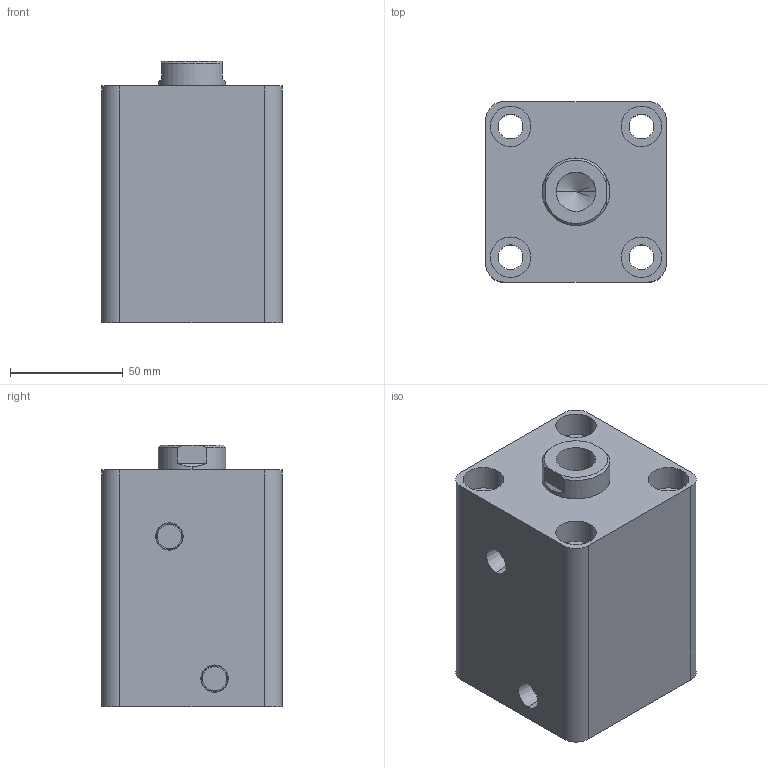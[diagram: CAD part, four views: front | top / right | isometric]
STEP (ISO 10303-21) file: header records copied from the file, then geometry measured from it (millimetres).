
FILE_DESCRIPTION (( 'STEP AP203' ), '1' );
FILE_NAME ('HTB-SD50-45N.STEP', '2019-10-07T07:09:15', ( '微软用户' ), ( '微软中国' ), 'SwSTEP 2.0', 'SolidWorks 2012', '' );
FILE_SCHEMA (( 'CONFIG_CONTROL_DESIGN' ));
Length unit declared in the file: millimetre
Products named in the file (3): HTB-SD50-45N; HTB-SD50-45N活塞杆; HTB-SD50-45掛极
Assembly tree (2 placements, depth 2):
  HTB-SD50-45N
    HTB-SD50-45掛极
    HTB-SD50-45N活塞杆
Bounding box: 80 x 80 x 116 mm (x, y, z)
Volume: 554417.9 mm3; surface area: 93289 mm2
Topology: 2 solids, 2 shells, 83 faces, 184 edges, 119 vertices
Faces by surface type: cylinder 42, plane 27, cone 8, torus 6
Entity records: 2655 total; most frequent: DIRECTION 456, CARTESIAN_POINT 417, ORIENTED_EDGE 364, AXIS2_PLACEMENT_3D 194, EDGE_CURVE 182, VERTEX_POINT 119, EDGE_LOOP 107, CIRCLE 106
